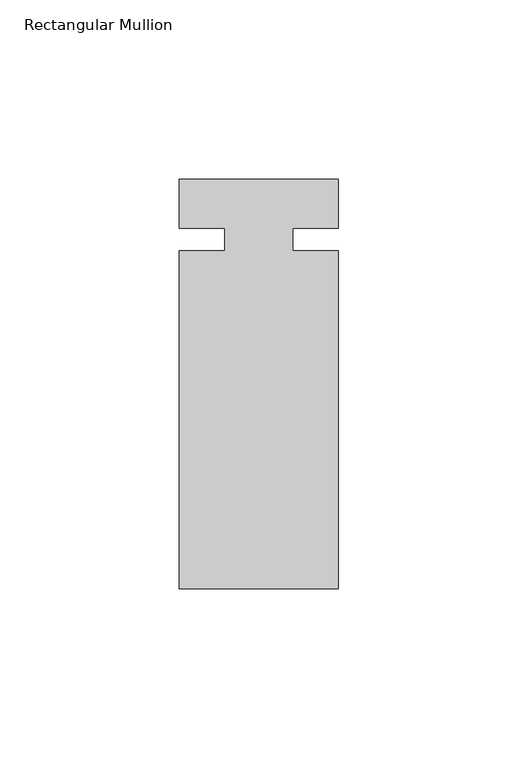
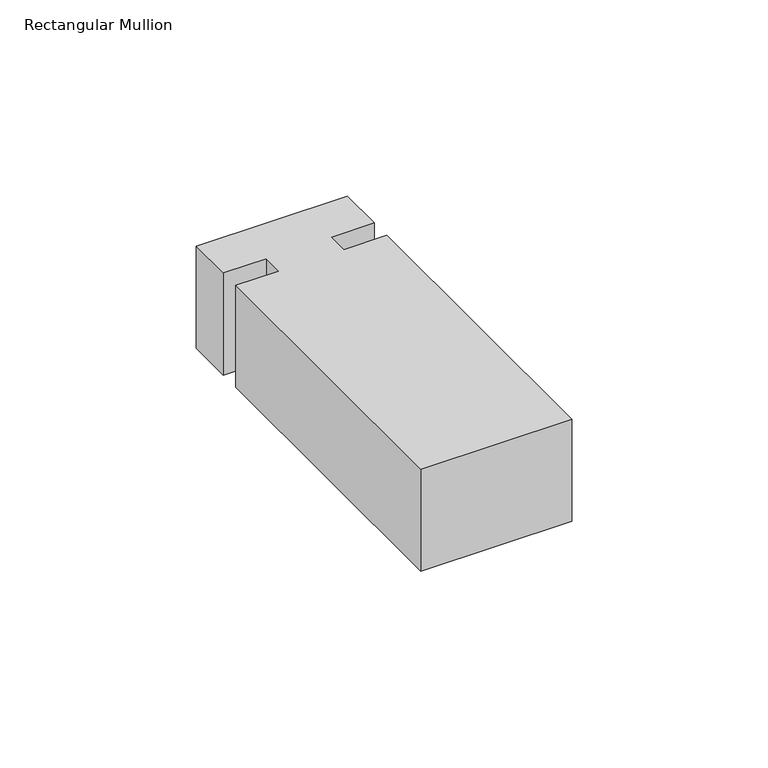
"""IFC4 building model written with IfcOpenShell, lengths in millimetres: member geometry, Rectangular Mullion : Kawneer-TRIFAB_VG_450_BACK_SB_Vertical."""

import ifcopenshell
import ifcopenshell.guid

model = None  # the IFC model being written
_history = None  # IfcOwnerHistory: only IFC2X3 demands one
_inside = {}  # id of a spatial element -> (the spatial element, [elements in it])
_under = {}  # id of a project, library or spatial element -> (it, [spatial elements below it])
_declared = {}  # id of a project -> (the project, [libraries it declares])
_typed = {}  # id of a type object -> (the type object, [elements of that type])
_made_of = {}  # id of a material, layer set ... -> (it, [elements and type objects made of it])


def new_model(schema):
    """Start an empty IFC model of exactly this schema.

    Asked for "IFC4X3", IfcOpenShell would pick the latest addendum, in which some entities
    have other attributes; the version numbers below select the first issue.
    IFC2X3 requires an IfcOwnerHistory on every rooted entity: one is made here for all.
    """
    global model, _history
    if schema == "IFC4X3":
        model = ifcopenshell.file(schema_version=(4, 3, 0, 0))
    else:
        model = ifcopenshell.file(schema=schema)
    _inside.clear()
    _under.clear()
    _declared.clear()
    _typed.clear()
    _made_of.clear()
    _history = None
    if model.schema == "IFC2X3":
        org = make("IfcOrganization", Name="unknown")
        user = make(
            "IfcPersonAndOrganization",
            ThePerson=make("IfcPerson", FamilyName="unknown"),
            TheOrganization=org,
        )
        app = make(
            "IfcApplication",
            ApplicationDeveloper=org,
            Version="unknown",
            ApplicationFullName="unknown",
            ApplicationIdentifier="unknown",
        )
        _history = make(
            "IfcOwnerHistory",
            OwningUser=user,
            OwningApplication=app,
            ChangeAction="ADDED",
            CreationDate=0,
        )
    return model


def make(cls, **values):
    """One entity of the class cls with the attributes given. An attribute that is None is left unset."""
    return model.create_entity(
        cls, **{name: value for name, value in values.items() if value is not None}
    )


def rooted(cls, **values):
    """An entity with a GlobalId (a new one), such as an element, a storey or a relation."""
    return make(cls, GlobalId=ifcopenshell.guid.new(), OwnerHistory=_history, **values)


def si_unit(unit_type, name, prefix=None):
    """IfcSIUnit, for example si_unit("LENGTHUNIT", "METRE", prefix="MILLI")."""
    return make("IfcSIUnit", UnitType=unit_type, Prefix=prefix, Name=name)


def assignment(units):
    """IfcUnitAssignment: the units of a project."""
    return None if units is None else make("IfcUnitAssignment", Units=units)


def point(xyz):
    """IfcCartesianPoint."""
    return None if xyz is None else make("IfcCartesianPoint", Coordinates=xyz)


def direction(xyz):
    """IfcDirection."""
    return None if xyz is None else make("IfcDirection", DirectionRatios=xyz)


def frame(location, z_axis=None, x_axis=None):
    """IfcAxis2Placement3D, a coordinate frame: its origin and axes. An axis left out is left unset."""
    return make(
        "IfcAxis2Placement3D",
        Location=point(location),
        Axis=direction(z_axis),
        RefDirection=direction(x_axis),
    )


def origin():
    """The frame at (0, 0, 0) with its axes left unset."""
    return frame((0.0, 0.0, 0.0))


def place(relative_to, where):
    """IfcLocalPlacement: puts the frame where relative to a parent placement (None: the world)."""
    return make(
        "IfcLocalPlacement", PlacementRelTo=relative_to, RelativePlacement=where
    )


def context(
    kind, dimensions, precision=None, world=None, true_north=None, identifier=None
):
    """IfcGeometricRepresentationContext, for example the 3D "Model" context."""
    return make(
        "IfcGeometricRepresentationContext",
        ContextIdentifier=identifier,
        ContextType=kind,
        CoordinateSpaceDimension=dimensions,
        Precision=precision,
        WorldCoordinateSystem=world,
        TrueNorth=true_north,
    )


def project(units=None, contexts=None):
    """IfcProject with its units and contexts."""
    return rooted(
        "IfcProject",
        Name="project",
        RepresentationContexts=contexts,
        UnitsInContext=assignment(units),
    )


def spatial(cls, under=None, at=None, **own):
    """A site, building, storey or space (cls), placed at a placement, below another one or the project."""
    s = rooted(cls, ObjectPlacement=at, **own)
    if under is not None:
        _under.setdefault(under.id(), (under, []))[1].append(s)
    return s


def polyline(points):
    """IfcPolyline through the points."""
    return make("IfcPolyline", Points=[point(p) for p in points])


def outline(outer, holes=None, kind="AREA"):
    """IfcArbitraryClosedProfileDef: a profile drawn as a closed curve; with holes, ...WithVoids."""
    if holes is None:
        return make("IfcArbitraryClosedProfileDef", ProfileType=kind, OuterCurve=outer)
    return make(
        "IfcArbitraryProfileDefWithVoids",
        ProfileType=kind,
        OuterCurve=outer,
        InnerCurves=holes,
    )


def extrude(swept, where, along, depth):
    """IfcExtrudedAreaSolid: the profile swept, set in the frame where, extruded along a direction by depth."""
    return make(
        "IfcExtrudedAreaSolid",
        SweptArea=swept,
        Position=where,
        ExtrudedDirection=direction(along),
        Depth=depth,
    )


def shape(context_of_items, identifier, shape_type, items):
    """IfcShapeRepresentation: the items that make up one representation, for example the "Body"."""
    return make(
        "IfcShapeRepresentation",
        ContextOfItems=context_of_items,
        RepresentationIdentifier=identifier,
        RepresentationType=shape_type,
        Items=items,
    )


def source(mapping_origin, context_of_items, identifier, shape_type, items):
    """IfcRepresentationMap: a shape defined once, which mapped items show again and again."""
    return make(
        "IfcRepresentationMap",
        MappingOrigin=mapping_origin,
        MappedRepresentation=shape(context_of_items, identifier, shape_type, items),
    )


def transform(
    local_origin,
    x_axis=None,
    y_axis=None,
    z_axis=None,
    scale=None,
    scale2=None,
    scale3=None,
    uniform=True,
):
    """IfcCartesianTransformationOperator3D, or its non-uniform kind. x_axis, y_axis, z_axis: its Axis1, 2, 3."""
    if uniform:
        return make(
            "IfcCartesianTransformationOperator3D",
            Axis1=direction(x_axis),
            Axis2=direction(y_axis),
            LocalOrigin=point(local_origin),
            Scale=scale,
            Axis3=direction(z_axis),
        )
    return make(
        "IfcCartesianTransformationOperator3DnonUniform",
        Axis1=direction(x_axis),
        Axis2=direction(y_axis),
        LocalOrigin=point(local_origin),
        Scale=scale,
        Axis3=direction(z_axis),
        Scale2=scale2,
        Scale3=scale3,
    )


def mapped(mapping_source, mapping_target):
    """IfcMappedItem: shows the shape of a source again, moved by a transform."""
    return make(
        "IfcMappedItem", MappingSource=mapping_source, MappingTarget=mapping_target
    )


def made_of(thing, what):
    """Note that an element or type object is made of a material, layer set ...; save() writes the relation."""
    if what is not None:
        _made_of.setdefault(what.id(), (what, []))[1].append(thing)
    return thing


def element(
    cls,
    number,
    at=None,
    inside=None,
    cuts=None,
    type_object=None,
    material=None,
    context=None,
    identifier="Body",
    shape_type=None,
    held_by="IfcProductDefinitionShape",
    body=None,
    shapes=None,
    **own,
):
    """One element of the class cls, such as IfcWall. Its Tag is "e" and its number.

    at: its placement. inside: the storey or other place that contains it. cuts: it is an
    opening in that element (IfcRelVoidsElement). A single representation is given by context,
    identifier, shape_type and body (its items); several are given by shapes. held_by: the class
    of the entity that holds the representations. save() writes the other relations.
    """
    e = rooted(cls, Tag="e%d" % number, ObjectPlacement=at, **own)
    if body is not None:
        shapes = [shape(context, identifier, shape_type, body)]
    if shapes is not None:
        e.Representation = make(held_by, Representations=shapes)
    if inside is not None:
        _inside.setdefault(inside.id(), (inside, []))[1].append(e)
    if cuts is not None:
        rooted(
            "IfcRelVoidsElement", RelatingBuildingElement=cuts, RelatedOpeningElement=e
        )
    if type_object is not None:
        _typed.setdefault(type_object.id(), (type_object, []))[1].append(e)
    return made_of(e, material)


def aggregate(whole, parts):
    """IfcRelAggregates: a whole, such as a stair, and the parts it consists of."""
    return rooted("IfcRelAggregates", RelatingObject=whole, RelatedObjects=parts)


def save(model, path):
    """Write the relations noted so far, then the file.

    IfcRelAggregates (storeys below a building ...), IfcRelContainedInSpatialStructure (elements
    in a storey), IfcRelDefinesByType, IfcRelAssociatesMaterial and IfcRelDeclares: one each for
    every whole, place, type object, material and project.
    """
    for whole, parts in _under.values():
        aggregate(whole, parts)
    for where, things in _inside.values():
        rooted(
            "IfcRelContainedInSpatialStructure",
            RelatedElements=things,
            RelatingStructure=where,
        )
    for kind, things in _typed.values():
        rooted("IfcRelDefinesByType", RelatedObjects=things, RelatingType=kind)
    for what, things in _made_of.values():
        rooted("IfcRelAssociatesMaterial", RelatedObjects=things, RelatingMaterial=what)
    for by, libraries in _declared.values():
        rooted("IfcRelDeclares", RelatingContext=by, RelatedDefinitions=libraries)
    model.write(path)


def rectangular_mullion_634541af(model_context):
    return source(origin(), model_context, "Body", "SweptSolid", [
        extrude(outline(polyline([(22.225, 16.8532346), (22.225, 3.175), (9.5232296, 3.175), (9.5232296, -3.175), (22.225, -3.175), (22.225, -97.4467654), (-22.225, -97.4467654), (-22.225, -3.175), (-9.525, -3.175), (-9.525, 3.175), (-22.225, 3.175), (-22.225, 16.8532346), (22.225, 16.8532346)])), frame((0.0, 0.0, -31.75), z_axis=(0.0, 0.0, 1.0), x_axis=(1.0, 0.0, 0.0)), (0.0, 0.0, 1.0), 31.75),
    ])


if __name__ == "__main__":
    model = new_model("IFC4")
    model_context = context("Model", 3, world=origin())
    ifc_project = project(units=[si_unit("LENGTHUNIT", "METRE", prefix="MILLI")], contexts=[model_context])
    site = spatial("IfcSite", under=ifc_project)
    building = spatial("IfcBuilding", under=site)
    placement = place(None, origin())
    rectangular_mullion_shape = rectangular_mullion_634541af(model_context)
    element("IfcMember", 1, ObjectType="Rectangular Mullion : Kawneer-TRIFAB_VG_450_BACK_SB_Vertical", at=placement, inside=building, context=model_context, shape_type="MappedRepresentation", body=[
        mapped(rectangular_mullion_shape, transform((0.0, 0.0, 0.0), x_axis=(1.0, 0.0, 0.0), y_axis=(0.0, 1.0, 0.0), z_axis=(0.0, 0.0, 1.0))),
    ])
    save(model, "model.ifc")
